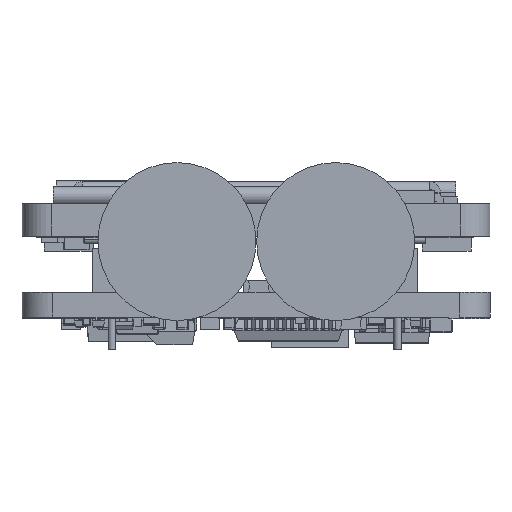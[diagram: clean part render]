
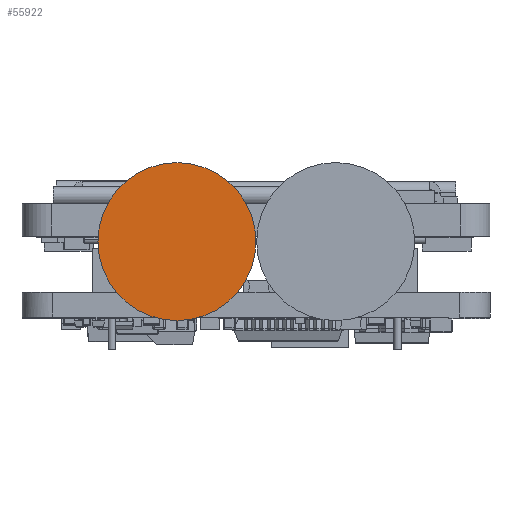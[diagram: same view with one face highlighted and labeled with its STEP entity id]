
A CAD part, left-side view. The second image highlights one B-rep face of the part: STEP entity #55922.
In plain terms, the highlighted planar face has unit normal (-1, 0, 0).
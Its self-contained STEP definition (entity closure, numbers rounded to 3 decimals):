
#743 = DIRECTION ( 'NONE',  ( -1., 0., 0. ) ) ;
#11870 = DIRECTION ( 'NONE',  ( -1., 0., 0. ) ) ;
#16319 = CIRCLE ( 'NONE', #102438, 5.125 ) ;
#17090 = CARTESIAN_POINT ( 'NONE',  ( -95.413, 30.851, 16.674 ) ) ;
#34709 = CARTESIAN_POINT ( 'NONE',  ( -95.413, 30.851, 11.549 ) ) ;
#36966 = DIRECTION ( 'NONE',  ( 0., 0., 1. ) ) ;
#43219 = AXIS2_PLACEMENT_3D ( 'NONE', #141422, #11870, #70476 ) ;
#55922 = ADVANCED_FACE ( 'NONE', ( #92814 ), #151507, .T. ) ;
#57833 = EDGE_CURVE ( 'NONE', #85195, #93923, #16319, .T. ) ;
#61453 = CIRCLE ( 'NONE', #147695, 5.125 ) ;
#70476 = DIRECTION ( 'NONE',  ( 0., 1., 0. ) ) ;
#74291 = EDGE_LOOP ( 'NONE', ( #125419, #87230 ) ) ;
#85195 = VERTEX_POINT ( 'NONE', #17090 ) ;
#87230 = ORIENTED_EDGE ( 'NONE', *, *, #147489, .T. ) ;
#87265 = CARTESIAN_POINT ( 'NONE',  ( -95.413, 30.851, 11.549 ) ) ;
#92814 = FACE_OUTER_BOUND ( 'NONE', #74291, .T. ) ;
#93923 = VERTEX_POINT ( 'NONE', #96967 ) ;
#96967 = CARTESIAN_POINT ( 'NONE',  ( -95.413, 30.851, 6.424 ) ) ;
#99576 = DIRECTION ( 'NONE',  ( -1., 0., 0. ) ) ;
#102438 = AXIS2_PLACEMENT_3D ( 'NONE', #34709, #743, #36966 ) ;
#125419 = ORIENTED_EDGE ( 'NONE', *, *, #57833, .T. ) ;
#134344 = DIRECTION ( 'NONE',  ( 0., 0., 1. ) ) ;
#141422 = CARTESIAN_POINT ( 'NONE',  ( -95.413, 28.601, 11.549 ) ) ;
#147489 = EDGE_CURVE ( 'NONE', #93923, #85195, #61453, .T. ) ;
#147695 = AXIS2_PLACEMENT_3D ( 'NONE', #87265, #99576, #134344 ) ;
#151507 = PLANE ( 'NONE',  #43219 ) ;
